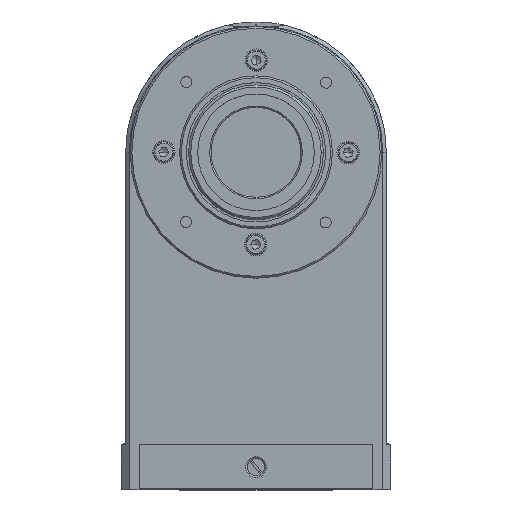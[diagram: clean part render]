
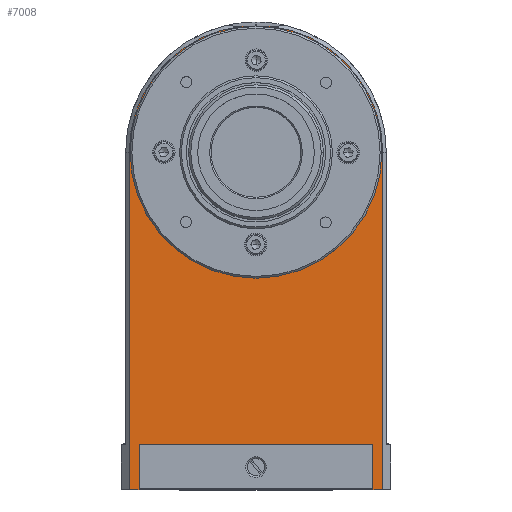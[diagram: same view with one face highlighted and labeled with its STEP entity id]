
A CAD part, top view. The second image highlights one B-rep face of the part: STEP entity #7008.
In plain terms, the highlighted planar face has unit normal (0, 0, 1).
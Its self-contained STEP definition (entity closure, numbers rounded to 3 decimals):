
#4339 = VERTEX_POINT ( 'NONE', #15644 ) ;
#4533 = EDGE_CURVE ( 'NONE', #4536, #4339, #16024, .T. ) ;
#4536 = VERTEX_POINT ( 'NONE', #16013 ) ;
#6993 = ORIENTED_EDGE ( 'NONE', *, *, #6994, .T. ) ;
#6994 = EDGE_CURVE ( 'NONE', #7019, #33397, #21300, .T. ) ;
#6995 = ORIENTED_EDGE ( 'NONE', *, *, #33454, .T. ) ;
#6996 = ORIENTED_EDGE ( 'NONE', *, *, #6997, .T. ) ;
#6997 = EDGE_CURVE ( 'NONE', #33401, #6998, #21296, .T. ) ;
#6998 = VERTEX_POINT ( 'NONE', #21292 ) ;
#6999 = ORIENTED_EDGE ( 'NONE', *, *, #7000, .F. ) ;
#7000 = EDGE_CURVE ( 'NONE', #7001, #6998, #21290, .T. ) ;
#7001 = VERTEX_POINT ( 'NONE', #21291 ) ;
#7002 = ORIENTED_EDGE ( 'NONE', *, *, #7003, .F. ) ;
#7003 = EDGE_CURVE ( 'NONE', #7004, #7001, #21350, .T. ) ;
#7004 = VERTEX_POINT ( 'NONE', #21346 ) ;
#7005 = ORIENTED_EDGE ( 'NONE', *, *, #7063, .F. ) ;
#7008 = ADVANCED_FACE ( 'NONE', ( #21345, #21344 ), #21343, .T. ) ;
#7009 = EDGE_LOOP ( 'NONE', ( #7010, #7011, #7014, #7017, #6993, #6995, #6996, #6999, #7002, #7005, #7064, #7065 ) ) ;
#7010 = ORIENTED_EDGE ( 'NONE', *, *, #33434, .T. ) ;
#7011 = ORIENTED_EDGE ( 'NONE', *, *, #7012, .F. ) ;
#7012 = EDGE_CURVE ( 'NONE', #7013, #33432, #21338, .T. ) ;
#7013 = VERTEX_POINT ( 'NONE', #21334 ) ;
#7014 = ORIENTED_EDGE ( 'NONE', *, *, #7015, .F. ) ;
#7015 = EDGE_CURVE ( 'NONE', #7016, #7013, #21333, .T. ) ;
#7016 = VERTEX_POINT ( 'NONE', #21329 ) ;
#7017 = ORIENTED_EDGE ( 'NONE', *, *, #7018, .F. ) ;
#7018 = EDGE_CURVE ( 'NONE', #7019, #7016, #21328, .T. ) ;
#7019 = VERTEX_POINT ( 'NONE', #21323 ) ;
#7063 = EDGE_CURVE ( 'NONE', #33462, #7004, #21432, .T. ) ;
#7064 = ORIENTED_EDGE ( 'NONE', *, *, #33461, .T. ) ;
#7065 = ORIENTED_EDGE ( 'NONE', *, *, #33450, .T. ) ;
#7066 = EDGE_LOOP ( 'NONE', ( #7067, #7068 ) ) ;
#7067 = ORIENTED_EDGE ( 'NONE', *, *, #4533, .T. ) ;
#7068 = ORIENTED_EDGE ( 'NONE', *, *, #33392, .T. ) ;
#15644 = CARTESIAN_POINT ( 'NONE',  ( 12.988, -9.568, 24. ) ) ;
#16013 = CARTESIAN_POINT ( 'NONE',  ( -37.012, -9.568, 24. ) ) ;
#16020 = DIRECTION ( 'NONE',  ( -1., 0., 0. ) ) ;
#16021 = DIRECTION ( 'NONE',  ( 0., 0., -1. ) ) ;
#16022 = CARTESIAN_POINT ( 'NONE',  ( -12.012, -9.568, 24. ) ) ;
#16023 = AXIS2_PLACEMENT_3D ( 'NONE', #16022, #16021, #16020 ) ;
#16024 = CIRCLE ( 'NONE', #16023, 25. ) ;
#21286 = DIRECTION ( 'NONE',  ( -1., 0., 0. ) ) ;
#21287 = DIRECTION ( 'NONE',  ( 0., 0., -1. ) ) ;
#21288 = CARTESIAN_POINT ( 'NONE',  ( -12.012, -9.568, 24. ) ) ;
#21289 = AXIS2_PLACEMENT_3D ( 'NONE', #21288, #21287, #21286 ) ;
#21290 = CIRCLE ( 'NONE', #21289, 28.2 ) ;
#21291 = CARTESIAN_POINT ( 'NONE',  ( -40.212, -9.568, 24. ) ) ;
#21292 = CARTESIAN_POINT ( 'NONE',  ( -15.364, 18.432, 24. ) ) ;
#21293 = DIRECTION ( 'NONE',  ( -1., 0., 0. ) ) ;
#21294 = VECTOR ( 'NONE', #21293, 1000. ) ;
#21295 = CARTESIAN_POINT ( 'NONE',  ( -41.012, 18.432, 24. ) ) ;
#21296 = LINE ( 'NONE', #21295, #21294 ) ;
#21297 = DIRECTION ( 'NONE',  ( -1., 0., 0. ) ) ;
#21298 = VECTOR ( 'NONE', #21297, 1000. ) ;
#21299 = CARTESIAN_POINT ( 'NONE',  ( -41.012, 18.432, 24. ) ) ;
#21300 = LINE ( 'NONE', #21299, #21298 ) ;
#21323 = CARTESIAN_POINT ( 'NONE',  ( -8.659, 18.432, 24. ) ) ;
#21324 = DIRECTION ( 'NONE',  ( -1., 0., 0. ) ) ;
#21325 = DIRECTION ( 'NONE',  ( 0., 0., -1. ) ) ;
#21326 = CARTESIAN_POINT ( 'NONE',  ( -12.012, -9.568, 24. ) ) ;
#21327 = AXIS2_PLACEMENT_3D ( 'NONE', #21326, #21325, #21324 ) ;
#21328 = CIRCLE ( 'NONE', #21327, 28.2 ) ;
#21329 = CARTESIAN_POINT ( 'NONE',  ( 16.188, -9.568, 24. ) ) ;
#21330 = DIRECTION ( 'NONE',  ( 0., -1., 0. ) ) ;
#21331 = VECTOR ( 'NONE', #21330, 1000. ) ;
#21332 = CARTESIAN_POINT ( 'NONE',  ( 16.188, -75.722, 24. ) ) ;
#21333 = LINE ( 'NONE', #21332, #21331 ) ;
#21334 = CARTESIAN_POINT ( 'NONE',  ( 16.188, -84.568, 24. ) ) ;
#21335 = DIRECTION ( 'NONE',  ( -1., 0., 0. ) ) ;
#21336 = VECTOR ( 'NONE', #21335, 1000. ) ;
#21337 = CARTESIAN_POINT ( 'NONE',  ( 17.988, -84.568, 24. ) ) ;
#21338 = LINE ( 'NONE', #21337, #21336 ) ;
#21339 = DIRECTION ( 'NONE',  ( 0., -1., 0. ) ) ;
#21340 = DIRECTION ( 'NONE',  ( 0., 0., 1. ) ) ;
#21341 = CARTESIAN_POINT ( 'NONE',  ( -12.012, -76.875, 24. ) ) ;
#21342 = AXIS2_PLACEMENT_3D ( 'NONE', #21341, #21340, #21339 ) ;
#21343 = PLANE ( 'NONE',  #21342 ) ;
#21344 = FACE_BOUND ( 'NONE', #7066, .T. ) ;
#21345 = FACE_OUTER_BOUND ( 'NONE', #7009, .T. ) ;
#21346 = CARTESIAN_POINT ( 'NONE',  ( -40.212, -84.568, 24. ) ) ;
#21347 = DIRECTION ( 'NONE',  ( 0., 1., 0. ) ) ;
#21348 = VECTOR ( 'NONE', #21347, 1000. ) ;
#21349 = CARTESIAN_POINT ( 'NONE',  ( -40.212, -80.722, 24. ) ) ;
#21350 = LINE ( 'NONE', #21349, #21348 ) ;
#21429 = DIRECTION ( 'NONE',  ( -1., 0., 0. ) ) ;
#21430 = VECTOR ( 'NONE', #21429, 1000. ) ;
#21431 = CARTESIAN_POINT ( 'NONE',  ( 17.988, -84.568, 24. ) ) ;
#21432 = LINE ( 'NONE', #21431, #21430 ) ;
#28091 = CARTESIAN_POINT ( 'NONE',  ( -12.062, 18.432, 24. ) ) ;
#28096 = CARTESIAN_POINT ( 'NONE',  ( -11.962, 18.432, 24. ) ) ;
#28107 = DIRECTION ( 'NONE',  ( -1., 0., 0. ) ) ;
#28108 = DIRECTION ( 'NONE',  ( 0., 0., -1. ) ) ;
#28109 = CARTESIAN_POINT ( 'NONE',  ( -12.012, -9.568, 24. ) ) ;
#28110 = AXIS2_PLACEMENT_3D ( 'NONE', #28109, #28108, #28107 ) ;
#28111 = CIRCLE ( 'NONE', #28110, 25. ) ;
#28161 = DIRECTION ( 'NONE',  ( 0., -1., 0. ) ) ;
#28162 = VECTOR ( 'NONE', #28161, 1000. ) ;
#28163 = CARTESIAN_POINT ( 'NONE',  ( 13.988, -76.875, 24. ) ) ;
#28164 = LINE ( 'NONE', #28163, #28162 ) ;
#28165 = CARTESIAN_POINT ( 'NONE',  ( 13.988, -84.568, 24. ) ) ;
#28194 = DIRECTION ( 'NONE',  ( -1., 0., 0. ) ) ;
#28195 = VECTOR ( 'NONE', #28194, 1000. ) ;
#28196 = CARTESIAN_POINT ( 'NONE',  ( -12.012, 18.432, 24. ) ) ;
#28197 = LINE ( 'NONE', #28196, #28195 ) ;
#28204 = DIRECTION ( 'NONE',  ( 1., 0., 0. ) ) ;
#28205 = VECTOR ( 'NONE', #28204, 1000. ) ;
#28206 = CARTESIAN_POINT ( 'NONE',  ( -12.012, -74.568, 24. ) ) ;
#28207 = LINE ( 'NONE', #28206, #28205 ) ;
#28208 = CARTESIAN_POINT ( 'NONE',  ( 13.988, -74.568, 24. ) ) ;
#28246 = CARTESIAN_POINT ( 'NONE',  ( -38.012, -84.568, 24. ) ) ;
#28247 = DIRECTION ( 'NONE',  ( 0., 1., 0. ) ) ;
#28248 = VECTOR ( 'NONE', #28247, 1000. ) ;
#28249 = CARTESIAN_POINT ( 'NONE',  ( -38.012, -76.875, 24. ) ) ;
#28250 = LINE ( 'NONE', #28249, #28248 ) ;
#28251 = CARTESIAN_POINT ( 'NONE',  ( -38.012, -74.568, 24. ) ) ;
#33392 = EDGE_CURVE ( 'NONE', #4339, #4536, #28111, .T. ) ;
#33397 = VERTEX_POINT ( 'NONE', #28096 ) ;
#33401 = VERTEX_POINT ( 'NONE', #28091 ) ;
#33432 = VERTEX_POINT ( 'NONE', #28165 ) ;
#33434 = EDGE_CURVE ( 'NONE', #33448, #33432, #28164, .T. ) ;
#33448 = VERTEX_POINT ( 'NONE', #28208 ) ;
#33450 = EDGE_CURVE ( 'NONE', #33459, #33448, #28207, .T. ) ;
#33454 = EDGE_CURVE ( 'NONE', #33397, #33401, #28197, .T. ) ;
#33459 = VERTEX_POINT ( 'NONE', #28251 ) ;
#33461 = EDGE_CURVE ( 'NONE', #33462, #33459, #28250, .T. ) ;
#33462 = VERTEX_POINT ( 'NONE', #28246 ) ;
